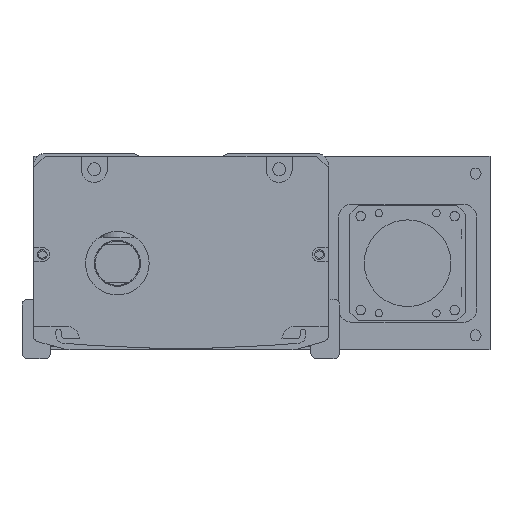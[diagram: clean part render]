
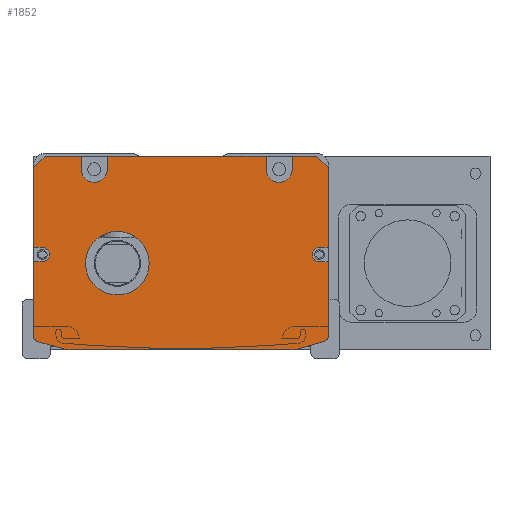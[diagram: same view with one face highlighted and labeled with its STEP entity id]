
A CAD part, front view. The second image highlights one B-rep face of the part: STEP entity #1852.
In plain terms, the highlighted planar face has unit normal (0, -1, 0).
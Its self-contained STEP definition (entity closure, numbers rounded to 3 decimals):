
#1852=ADVANCED_FACE('',(#4440,#4441),#2411,.F.);
#2411=PLANE('',#14145);
#2952=LINE('',#27134,#3751);
#2956=LINE('',#27143,#3755);
#2964=LINE('',#27170,#3763);
#2968=LINE('',#27179,#3767);
#2975=LINE('',#27195,#3774);
#2977=LINE('',#27200,#3776);
#2992=LINE('',#27243,#3791);
#2994=LINE('',#27251,#3793);
#2997=LINE('',#27255,#3796);
#3018=LINE('',#27323,#3817);
#3022=LINE('',#27332,#3821);
#3026=LINE('',#27341,#3825);
#3030=LINE('',#27350,#3829);
#3034=LINE('',#27366,#3833);
#3038=LINE('',#27372,#3837);
#3039=LINE('',#27373,#3838);
#3041=LINE('',#27389,#3840);
#3042=LINE('',#27390,#3841);
#3043=LINE('',#27391,#3842);
#3044=LINE('',#27392,#3843);
#3751=VECTOR('',#16697,1.);
#3755=VECTOR('',#16703,1.);
#3763=VECTOR('',#16725,1.);
#3767=VECTOR('',#16731,1.);
#3774=VECTOR('',#16740,1.);
#3776=VECTOR('',#16744,1.);
#3791=VECTOR('',#16783,1.);
#3793=VECTOR('',#16793,1.);
#3796=VECTOR('',#16798,1.);
#3817=VECTOR('',#16873,1.);
#3821=VECTOR('',#16879,1.);
#3825=VECTOR('',#16885,1.);
#3829=VECTOR('',#16891,1.);
#3833=VECTOR('',#16909,1.);
#3837=VECTOR('',#16913,1.);
#3838=VECTOR('',#16914,1.);
#3840=VECTOR('',#16938,1.);
#3841=VECTOR('',#16939,1.);
#3842=VECTOR('',#16940,1.);
#3843=VECTOR('',#16941,1.);
#4440=FACE_BOUND('',#5358,.T.);
#4441=FACE_BOUND('',#5359,.T.);
#5358=EDGE_LOOP('',(#7865,#7866,#7867,#7868,#7869,#7870,#7871,#7872,#7873,
#7874,#7875,#7876,#7877,#7878,#7879,#7880,#7881,#7882,#7883,#7884,#7885,
#7886,#7887,#7888,#7889,#7890,#7891,#7892));
#5359=EDGE_LOOP('',(#7893));
#7865=ORIENTED_EDGE('',*,*,#11922,.T.);
#7866=ORIENTED_EDGE('',*,*,#11799,.T.);
#7867=ORIENTED_EDGE('',*,*,#11909,.T.);
#7868=ORIENTED_EDGE('',*,*,#11826,.F.);
#7869=ORIENTED_EDGE('',*,*,#11863,.T.);
#7870=ORIENTED_EDGE('',*,*,#11828,.F.);
#7871=ORIENTED_EDGE('',*,*,#11914,.T.);
#7872=ORIENTED_EDGE('',*,*,#11815,.F.);
#7873=ORIENTED_EDGE('',*,*,#11860,.T.);
#7874=ORIENTED_EDGE('',*,*,#11819,.F.);
#7875=ORIENTED_EDGE('',*,*,#11913,.T.);
#7876=ORIENTED_EDGE('',*,*,#11803,.T.);
#7877=ORIENTED_EDGE('',*,*,#11923,.T.);
#7878=ORIENTED_EDGE('',*,*,#11893,.T.);
#7879=ORIENTED_EDGE('',*,*,#11921,.T.);
#7880=ORIENTED_EDGE('',*,*,#11889,.T.);
#7881=ORIENTED_EDGE('',*,*,#11924,.T.);
#7882=ORIENTED_EDGE('',*,*,#11846,.T.);
#7883=ORIENTED_EDGE('',*,*,#11849,.T.);
#7884=ORIENTED_EDGE('',*,*,#11852,.T.);
#7885=ORIENTED_EDGE('',*,*,#11853,.T.);
#7886=ORIENTED_EDGE('',*,*,#11809,.T.);
#7887=ORIENTED_EDGE('',*,*,#11856,.T.);
#7888=ORIENTED_EDGE('',*,*,#11811,.T.);
#7889=ORIENTED_EDGE('',*,*,#11925,.T.);
#7890=ORIENTED_EDGE('',*,*,#11901,.T.);
#7891=ORIENTED_EDGE('',*,*,#11920,.T.);
#7892=ORIENTED_EDGE('',*,*,#11897,.T.);
#7893=ORIENTED_EDGE('',*,*,#11865,.T.);
#10235=VERTEX_POINT('',#27135);
#10236=VERTEX_POINT('',#27136);
#10239=VERTEX_POINT('',#27144);
#10240=VERTEX_POINT('',#27145);
#10245=VERTEX_POINT('',#27156);
#10246=VERTEX_POINT('',#27158);
#10247=VERTEX_POINT('',#27162);
#10248=VERTEX_POINT('',#27163);
#10251=VERTEX_POINT('',#27171);
#10252=VERTEX_POINT('',#27172);
#10255=VERTEX_POINT('',#27180);
#10256=VERTEX_POINT('',#27181);
#10260=VERTEX_POINT('',#27190);
#10262=VERTEX_POINT('',#27194);
#10263=VERTEX_POINT('',#27198);
#10265=VERTEX_POINT('',#27201);
#10275=VERTEX_POINT('',#27231);
#10278=VERTEX_POINT('',#27236);
#10280=VERTEX_POINT('',#27242);
#10282=VERTEX_POINT('',#27248);
#10285=VERTEX_POINT('',#27274);
#10301=VERTEX_POINT('',#27321);
#10303=VERTEX_POINT('',#27324);
#10306=VERTEX_POINT('',#27331);
#10307=VERTEX_POINT('',#27333);
#10309=VERTEX_POINT('',#27339);
#10311=VERTEX_POINT('',#27342);
#10314=VERTEX_POINT('',#27349);
#10315=VERTEX_POINT('',#27351);
#11799=EDGE_CURVE('',#10235,#10236,#2952,.T.);
#11803=EDGE_CURVE('',#10239,#10240,#2956,.T.);
#11809=EDGE_CURVE('',#10246,#10245,#12996,.T.);
#11811=EDGE_CURVE('',#10247,#10248,#12997,.T.);
#11815=EDGE_CURVE('',#10251,#10252,#2964,.T.);
#11819=EDGE_CURVE('',#10255,#10256,#2968,.T.);
#11826=EDGE_CURVE('',#10262,#10260,#2975,.T.);
#11828=EDGE_CURVE('',#10263,#10265,#2977,.T.);
#11846=EDGE_CURVE('',#10275,#10278,#13004,.T.);
#11849=EDGE_CURVE('',#10278,#10280,#2992,.T.);
#11852=EDGE_CURVE('',#10280,#10282,#13006,.T.);
#11853=EDGE_CURVE('',#10282,#10246,#2994,.T.);
#11856=EDGE_CURVE('',#10245,#10247,#2997,.T.);
#11860=EDGE_CURVE('',#10251,#10256,#13009,.T.);
#11863=EDGE_CURVE('',#10262,#10265,#13012,.T.);
#11865=EDGE_CURVE('',#10285,#10285,#13013,.T.);
#11889=EDGE_CURVE('',#10303,#10301,#3018,.T.);
#11893=EDGE_CURVE('',#10307,#10306,#3022,.T.);
#11897=EDGE_CURVE('',#10311,#10309,#3026,.T.);
#11901=EDGE_CURVE('',#10315,#10314,#3030,.T.);
#11909=EDGE_CURVE('',#10236,#10260,#3034,.T.);
#11913=EDGE_CURVE('',#10255,#10239,#3038,.T.);
#11914=EDGE_CURVE('',#10263,#10252,#3039,.T.);
#11920=EDGE_CURVE('',#10314,#10311,#13027,.T.);
#11921=EDGE_CURVE('',#10306,#10303,#13028,.T.);
#11922=EDGE_CURVE('',#10309,#10235,#3041,.T.);
#11923=EDGE_CURVE('',#10240,#10307,#3042,.T.);
#11924=EDGE_CURVE('',#10301,#10275,#3043,.T.);
#11925=EDGE_CURVE('',#10248,#10315,#3044,.T.);
#12996=CIRCLE('',#14072,10.);
#12997=CIRCLE('',#14074,2.);
#13004=CIRCLE('',#14090,2.);
#13006=CIRCLE('',#14094,10.);
#13009=CIRCLE('',#14102,4.5);
#13012=CIRCLE('',#14107,4.5);
#13013=CIRCLE('',#14110,11.);
#13027=CIRCLE('',#14141,2.5);
#13028=CIRCLE('',#14143,2.5);
#14072=AXIS2_PLACEMENT_3D('',#27157,#16712,#16713);
#14074=AXIS2_PLACEMENT_3D('',#27161,#16717,#16718);
#14090=AXIS2_PLACEMENT_3D('',#27237,#16777,#16778);
#14094=AXIS2_PLACEMENT_3D('',#27249,#16789,#16790);
#14102=AXIS2_PLACEMENT_3D('',#27263,#16810,#16811);
#14107=AXIS2_PLACEMENT_3D('',#27269,#16820,#16821);
#14110=AXIS2_PLACEMENT_3D('',#27273,#16827,#16828);
#14141=AXIS2_PLACEMENT_3D('',#27385,#16930,#16931);
#14143=AXIS2_PLACEMENT_3D('',#27387,#16934,#16935);
#14145=AXIS2_PLACEMENT_3D('',#27393,#16942,#16943);
#16697=DIRECTION('',(-0.707,0.,0.707));
#16703=DIRECTION('',(-0.707,0.,-0.707));
#16712=DIRECTION('',(0.,-1.,0.));
#16713=DIRECTION('',(0.,0.,-1.));
#16717=DIRECTION('',(0.,-1.,0.));
#16718=DIRECTION('',(0.,0.,-1.));
#16725=DIRECTION('',(0.,0.,1.));
#16731=DIRECTION('',(0.,0.,-1.));
#16740=DIRECTION('',(0.,0.,1.));
#16744=DIRECTION('',(0.,0.,-1.));
#16777=DIRECTION('',(0.,-1.,0.));
#16778=DIRECTION('',(0.,0.,1.));
#16783=DIRECTION('',(0.963,0.,-0.269));
#16789=DIRECTION('',(0.,-1.,0.));
#16790=DIRECTION('',(0.,0.,1.));
#16793=DIRECTION('',(1.,0.,0.));
#16798=DIRECTION('',(0.963,0.,0.269));
#16810=DIRECTION('',(0.,1.,0.));
#16811=DIRECTION('',(0.,0.,1.));
#16820=DIRECTION('',(0.,1.,0.));
#16821=DIRECTION('',(0.,0.,1.));
#16827=DIRECTION('',(0.,1.,0.));
#16828=DIRECTION('',(0.,0.,1.));
#16873=DIRECTION('',(-1.,0.,0.));
#16879=DIRECTION('',(1.,0.,0.));
#16885=DIRECTION('',(1.,0.,0.));
#16891=DIRECTION('',(-1.,0.,0.));
#16909=DIRECTION('',(-1.,0.,0.));
#16913=DIRECTION('',(-1.,0.,0.));
#16914=DIRECTION('',(-1.,0.,0.));
#16930=DIRECTION('',(0.,1.,0.));
#16931=DIRECTION('',(0.,0.,1.));
#16934=DIRECTION('',(0.,1.,0.));
#16935=DIRECTION('',(0.,0.,1.));
#16938=DIRECTION('',(0.,0.,1.));
#16939=DIRECTION('',(0.,0.,-1.));
#16940=DIRECTION('',(0.,0.,-1.));
#16941=DIRECTION('',(0.,0.,1.));
#16942=DIRECTION('',(0.,1.,0.));
#16943=DIRECTION('',(-1.,0.,0.));
#27134=CARTESIAN_POINT('',(43.808,-567.5,-1.));
#27135=CARTESIAN_POINT('',(47.808,-567.5,-5.));
#27136=CARTESIAN_POINT('',(43.808,-567.5,-1.));
#27143=CARTESIAN_POINT('',(-54.192,-567.5,-5.));
#27144=CARTESIAN_POINT('',(-50.192,-567.5,-1.));
#27145=CARTESIAN_POINT('',(-54.192,-567.5,-5.));
#27156=CARTESIAN_POINT('',(37.424,-567.5,-67.631));
#27157=CARTESIAN_POINT('',(34.733,-567.5,-58.));
#27158=CARTESIAN_POINT('',(34.733,-567.5,-68.));
#27161=CARTESIAN_POINT('',(45.808,-567.5,-63.212));
#27162=CARTESIAN_POINT('',(46.346,-567.5,-65.138));
#27163=CARTESIAN_POINT('',(47.808,-567.5,-63.212));
#27170=CARTESIAN_POINT('',(-28.692,-567.5,-3.5));
#27171=CARTESIAN_POINT('',(-28.692,-567.5,-5.5));
#27172=CARTESIAN_POINT('',(-28.692,-567.5,-1.));
#27179=CARTESIAN_POINT('',(-37.692,-567.5,-1.));
#27180=CARTESIAN_POINT('',(-37.692,-567.5,-1.));
#27181=CARTESIAN_POINT('',(-37.692,-567.5,-5.5));
#27190=CARTESIAN_POINT('',(35.308,-567.5,-1.));
#27194=CARTESIAN_POINT('',(35.308,-567.5,-5.5));
#27195=CARTESIAN_POINT('',(35.308,-567.5,-1.));
#27198=CARTESIAN_POINT('',(26.308,-567.5,-1.));
#27200=CARTESIAN_POINT('',(26.308,-567.5,-1.));
#27201=CARTESIAN_POINT('',(26.308,-567.5,-5.5));
#27231=CARTESIAN_POINT('',(-54.192,-567.5,-63.212));
#27236=CARTESIAN_POINT('',(-52.731,-567.5,-65.138));
#27237=CARTESIAN_POINT('',(-52.192,-567.5,-63.212));
#27242=CARTESIAN_POINT('',(-43.809,-567.5,-67.631));
#27243=CARTESIAN_POINT('',(-55.807,-567.5,-64.279));
#27248=CARTESIAN_POINT('',(-41.118,-567.5,-68.));
#27249=CARTESIAN_POINT('',(-41.118,-567.5,-58.));
#27251=CARTESIAN_POINT('',(-54.692,-567.5,-68.));
#27255=CARTESIAN_POINT('',(49.422,-567.5,-64.279));
#27263=CARTESIAN_POINT('',(-33.192,-567.5,-5.5));
#27269=CARTESIAN_POINT('',(30.808,-567.5,-5.5));
#27273=CARTESIAN_POINT('',(-25.192,-567.5,-38.));
#27274=CARTESIAN_POINT('',(-25.192,-567.5,-27.));
#27321=CARTESIAN_POINT('',(-54.192,-567.5,-37.5));
#27323=CARTESIAN_POINT('',(-3.192,-567.5,-37.5));
#27324=CARTESIAN_POINT('',(-51.192,-567.5,-37.5));
#27331=CARTESIAN_POINT('',(-51.192,-567.5,-32.5));
#27332=CARTESIAN_POINT('',(-3.192,-567.5,-32.5));
#27333=CARTESIAN_POINT('',(-54.192,-567.5,-32.5));
#27339=CARTESIAN_POINT('',(47.808,-567.5,-32.5));
#27341=CARTESIAN_POINT('',(-3.192,-567.5,-32.5));
#27342=CARTESIAN_POINT('',(44.808,-567.5,-32.5));
#27349=CARTESIAN_POINT('',(44.808,-567.5,-37.5));
#27350=CARTESIAN_POINT('',(-3.192,-567.5,-37.5));
#27351=CARTESIAN_POINT('',(47.808,-567.5,-37.5));
#27366=CARTESIAN_POINT('',(-3.192,-567.5,-1.));
#27372=CARTESIAN_POINT('',(-54.192,-567.5,-1.));
#27373=CARTESIAN_POINT('',(-54.192,-567.5,-1.));
#27385=CARTESIAN_POINT('',(44.808,-567.5,-35.));
#27387=CARTESIAN_POINT('',(-51.192,-567.5,-35.));
#27389=CARTESIAN_POINT('',(47.808,-567.5,-1.));
#27390=CARTESIAN_POINT('',(-54.192,-567.5,-62.));
#27391=CARTESIAN_POINT('',(-54.192,-567.5,-62.));
#27392=CARTESIAN_POINT('',(47.808,-567.5,-1.));
#27393=CARTESIAN_POINT('',(-3.192,-567.5,-1.));
